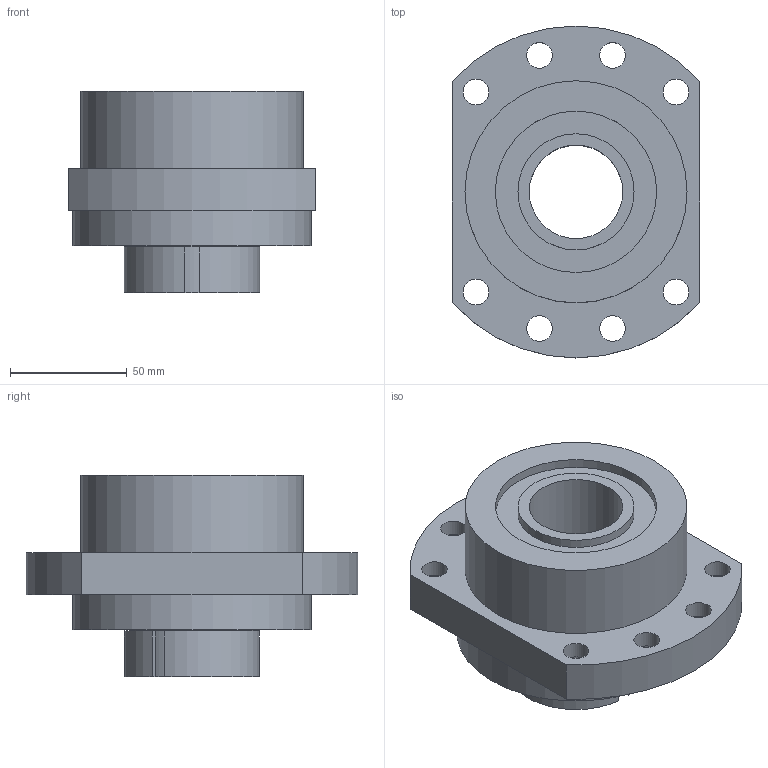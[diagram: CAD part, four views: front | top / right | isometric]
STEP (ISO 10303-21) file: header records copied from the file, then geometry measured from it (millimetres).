
FILE_DESCRIPTION(/* description */ (''),/* implementation_level */ '2;1');
FILE_NAME(/* name */ 'C:\Users\tenki620635\Desktop\官網\圖面\軸承座\3D\setp檔\WBK40 DF.stp',/* time_stamp */ '2020-12-21T09:59:58+08:00',/* author */ ('tenki620635'),/* organization */ (''),/* preprocessor_version */ 'ST-DEVELOPER v15.2',/* originating_system */ 'Autodesk Inventor 2014',/* authorisation */ '');
FILE_SCHEMA (('AUTOMOTIVE_DESIGN { 1 0 10303 214 3 1 1 }'));
Length unit declared in the file: millimetre
Products named in the file (1): WBK40 DF-Atype
Bounding box: 106 x 142 x 86 mm (x, y, z)
Volume: 502175 mm3; surface area: 71090.9 mm2
Topology: 1 solids, 1 shells, 58 faces, 120 edges, 80 vertices
Faces by surface type: cylinder 32, plane 26
Full cylindrical faces by diameter (mm): 11 x8, 17.5 x8, 40 x1, 49.7 x2, 52 x1, 69 x2, 95 x1, 102 x1
Entity records: 1505 total; most frequent: DIRECTION 278, CARTESIAN_POINT 235, ORIENTED_EDGE 192, AXIS2_PLACEMENT_3D 123, EDGE_LOOP 116, EDGE_CURVE 96, VERTEX_POINT 80, FACE_BOUND 65
